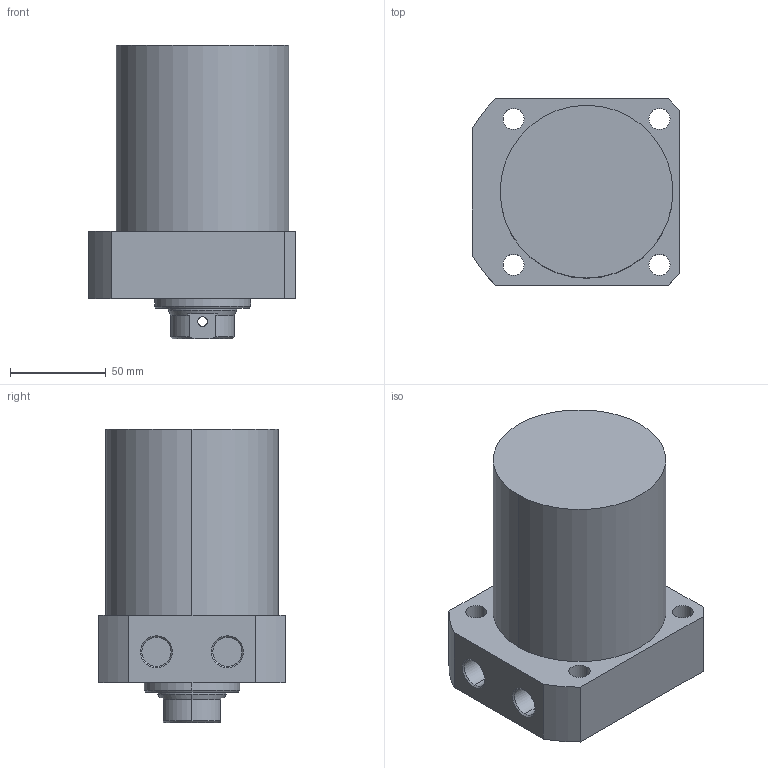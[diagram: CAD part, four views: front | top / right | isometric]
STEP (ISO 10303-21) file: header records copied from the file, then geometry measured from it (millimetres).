
FILE_DESCRIPTION (( 'STEP AP203' ), '1' );
FILE_NAME ('CLLR-090CB-075.STEP', '2019-12-19T02:34:48', ( '' ), ( '' ), 'SwSTEP 2.0', 'SolidWorks 2015', '' );
FILE_SCHEMA (( 'CONFIG_CONTROL_DESIGN' ));
Length unit declared in the file: millimetre
Products named in the file (1): CLLR-090CB-075
Bounding box: 108 x 97 x 153 mm (x, y, z)
Volume: 967101.5 mm3; surface area: 72611.8 mm2
Topology: 1 solids, 1 shells, 67 faces, 161 edges, 102 vertices
Faces by surface type: cylinder 33, plane 19, cone 15
Entity records: 2179 total; most frequent: CARTESIAN_POINT 477, DIRECTION 360, ORIENTED_EDGE 318, EDGE_CURVE 159, AXIS2_PLACEMENT_3D 145, VERTEX_POINT 102, EDGE_LOOP 87, CIRCLE 77
